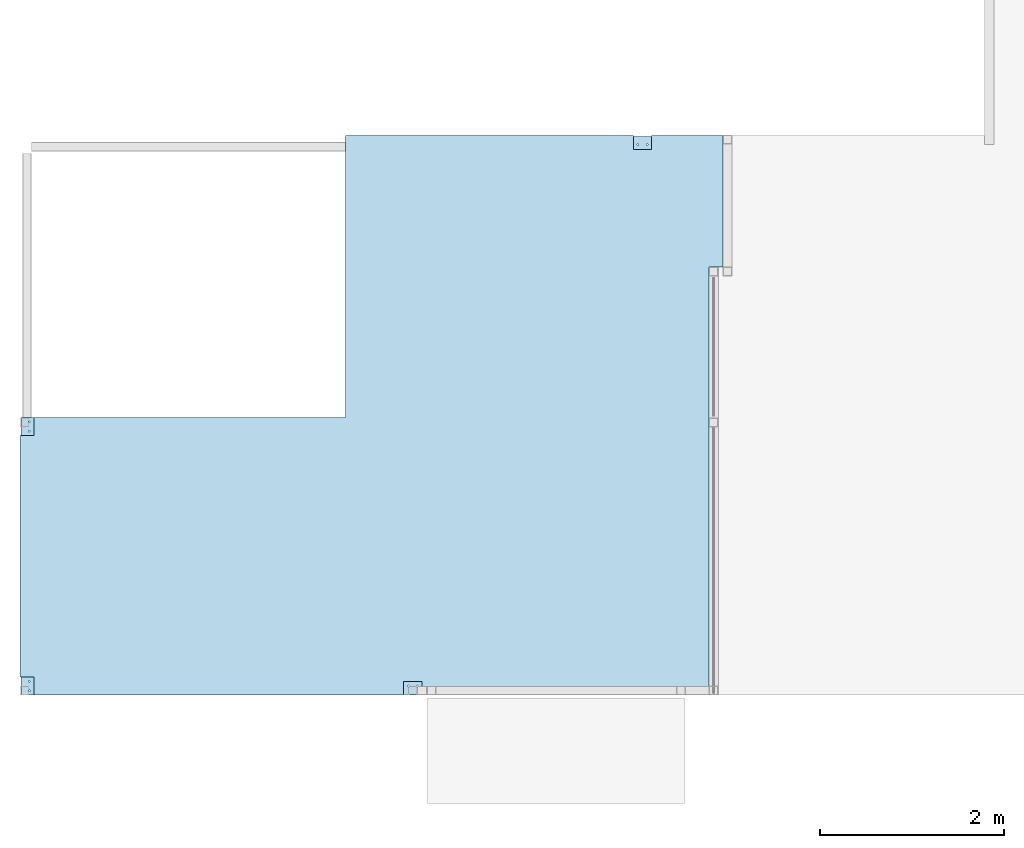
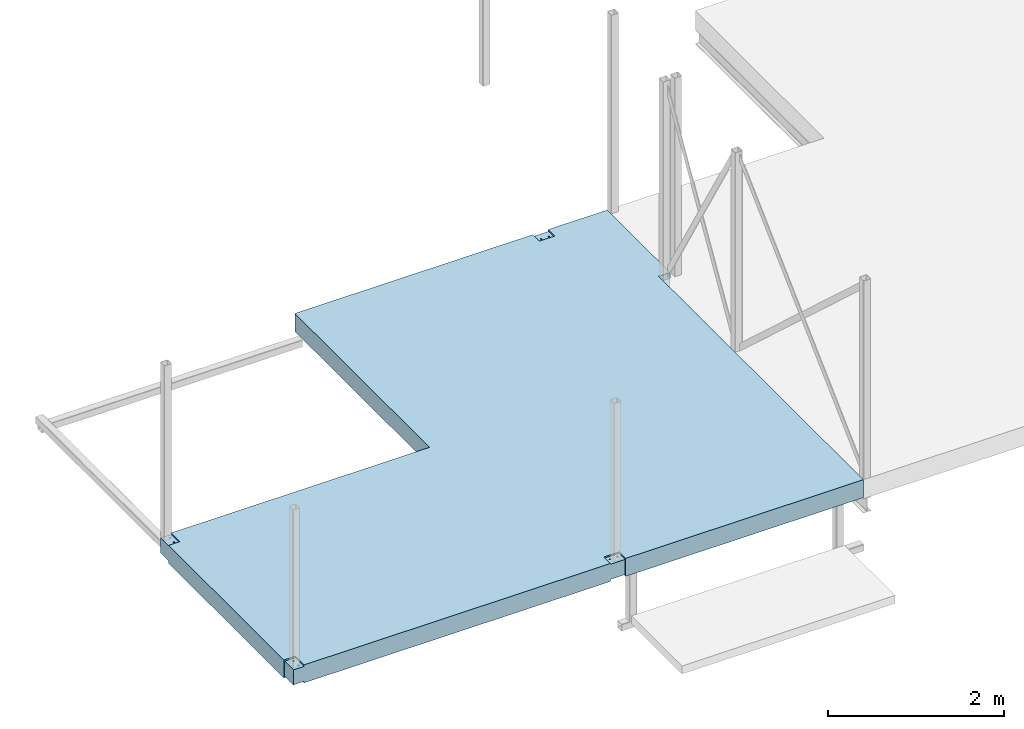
# One storey, part 7 of 7: 1 slab.
"""IFC2X3 building model written with IfcOpenShell, lengths in millimetres."""

from ifc_helpers import new_model, entity, si_unit, converted_unit, derived_unit, direction, frame, origin, place, context, subcontext, project, spatial, faceted_brep, material, element, save


model = new_model("IFC2X3")

# Units and contexts
model_context = context("Model", 3, precision=0.01, world=origin(), true_north=direction((6.12303176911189e-17, 1.0)))
body_context = subcontext(model_context, "Body", "Model", "MODEL_VIEW")
ifc_project = project(units=[si_unit("LENGTHUNIT", "METRE", prefix="MILLI"), si_unit("AREAUNIT", "SQUARE_METRE"), si_unit("VOLUMEUNIT", "CUBIC_METRE"), converted_unit("PLANEANGLEUNIT", "DEGREE", entity("IfcRatioMeasure", 0.0174532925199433), si_unit("PLANEANGLEUNIT", "RADIAN"), dimensions=[0, 0, 0, 0, 0, 0, 0]), si_unit("MASSUNIT", "GRAM", prefix="KILO"), derived_unit("MASSDENSITYUNIT", [(si_unit("MASSUNIT", "GRAM", prefix="KILO"), 1), (si_unit("LENGTHUNIT", "METRE"), -3)]), si_unit("TIMEUNIT", "SECOND"), si_unit("FREQUENCYUNIT", "HERTZ"), si_unit("THERMODYNAMICTEMPERATUREUNIT", "DEGREE_CELSIUS"), derived_unit("THERMALTRANSMITTANCEUNIT", [(si_unit("MASSUNIT", "GRAM", prefix="KILO"), 1), (si_unit("THERMODYNAMICTEMPERATUREUNIT", "KELVIN"), -1), (si_unit("TIMEUNIT", "SECOND"), -3)]), derived_unit("VOLUMETRICFLOWRATEUNIT", [(si_unit("LENGTHUNIT", "METRE"), 3), (si_unit("TIMEUNIT", "SECOND"), -1)]), si_unit("ELECTRICCURRENTUNIT", "AMPERE"), si_unit("ELECTRICVOLTAGEUNIT", "VOLT"), si_unit("POWERUNIT", "WATT"), si_unit("FORCEUNIT", "NEWTON", prefix="KILO"), si_unit("ILLUMINANCEUNIT", "LUX"), si_unit("LUMINOUSFLUXUNIT", "LUMEN"), si_unit("LUMINOUSINTENSITYUNIT", "CANDELA"), derived_unit("USERDEFINED", [(si_unit("MASSUNIT", "GRAM", prefix="KILO"), -1), (si_unit("LENGTHUNIT", "METRE"), -2), (si_unit("TIMEUNIT", "SECOND"), 3), (si_unit("LUMINOUSFLUXUNIT", "LUMEN"), 1)]), derived_unit("LINEARVELOCITYUNIT", [(si_unit("LENGTHUNIT", "METRE"), 1), (si_unit("TIMEUNIT", "SECOND"), -1)]), si_unit("PRESSUREUNIT", "PASCAL"), derived_unit("USERDEFINED", [(si_unit("LENGTHUNIT", "METRE"), -2), (si_unit("MASSUNIT", "GRAM", prefix="KILO"), 1), (si_unit("TIMEUNIT", "SECOND"), -2)])], contexts=[model_context])

# Site, building, storey
site_placement = place(None, frame((0.0, 0.0, 101000.0)))
site = spatial("IfcSite", under=ifc_project, at=site_placement, Name="Default", CompositionType="ELEMENT")
building_placement = place(site_placement, origin())
building = spatial("IfcBuilding", under=site, at=building_placement, CompositionType="ELEMENT")
storey_placement = place(building_placement, frame((0.0, 0.0, 3150.0)))
storey = spatial("IfcBuildingStorey", under=building, at=storey_placement, Name="02", CompositionType="ELEMENT", Elevation=3149.9999999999)

# Slab
ifc_material = material(Name="Betong Plasstøpt - B35")
slab_placement = place(storey_placement, origin())
element("IfcSlab", 1, at=slab_placement, inside=storey, material=ifc_material, Name="Floor:BETONG 250", ObjectType="Floor:BETONG 250", PredefinedType="FLOOR", context=body_context, shape_type="Brep", body=[
    faceted_brep([(11361.2644969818, 29540.299422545, -250.0), (10586.2644969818, 29540.299422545, -250.0), (10586.2644969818, 29540.299422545, -230.0), (10586.2644969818, 29540.299422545, -20.0), (10586.2644969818, 29540.299422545, 0.0), (11361.2644969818, 29540.299422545, 0.0), (10386.2644969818, 29540.299422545, -250.0), (7256.2644969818, 29540.2994225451, -250.0), (7256.2644969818, 29540.2994225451, 0.0), (10386.2644969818, 29540.299422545, 0.0), (10386.2644969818, 29540.299422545, -20.0), (10386.2644969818, 29540.299422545, -230.0), (7886.26449698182, 23447.9507529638, -250.0), (7886.26449698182, 23447.9507529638, -230.0), (7886.26449698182, 23447.9507529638, -20.0), (7886.26449698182, 23447.9507529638, 0.0), (3861.26449698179, 23447.9507529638, 0.0), (3861.26449698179, 23447.9507529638, -20.0), (3721.26449698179, 23447.9507529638, -20.0), (3721.26449698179, 23447.9507529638, -230.0), (3861.26449698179, 23447.9507529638, -230.0), (3861.26449698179, 23447.9507529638, -250.0), (8086.26449698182, 23447.9507529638, -250.0), (11211.2644969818, 23447.9507529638, -250.0), (11211.2644969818, 23447.9507529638, 0.0), (8086.26449698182, 23447.9507529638, 0.0), (8086.26449698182, 23447.9507529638, -20.0), (8086.26449698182, 23447.9507529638, -230.0), (11211.2644969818, 28108.4336358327, -250.0), (8086.26449698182, 23597.9507529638, -250.0), (7886.26449698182, 23597.9507529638, -250.0), (3861.2644969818, 23647.9507529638, -250.0), (3711.2644969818, 23647.9507529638, -250.0), (3711.2644969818, 26272.9507529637, -250.0), (3861.2644969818, 26272.9507529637, -250.0), (3861.2644969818, 26472.9507529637, -250.0), (7256.26449698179, 26472.9507529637, -250.0), (10386.2644969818, 29390.299422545, -250.0), (10586.2644969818, 29390.2994225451, -250.0), (11361.2644969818, 28108.4336358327, -250.0), (7886.26449698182, 23597.9507529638, 0.0), (8086.26449698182, 23597.9507529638, 0.0), (11211.2644969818, 28108.4336358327, 0.0), (11361.2644969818, 28108.4336358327, 0.0), (10586.2644969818, 29390.299422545, 0.0), (10386.2644969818, 29390.299422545, 0.0), (7256.26449698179, 26472.9507529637, 0.0), (3861.2644969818, 26472.9507529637, 0.0), (3861.2644969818, 26272.9507529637, 0.0), (3711.2644969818, 26272.9507529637, 0.0), (3711.2644969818, 23647.9507529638, 0.0), (3861.2644969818, 23647.9507529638, 0.0), (3711.2644969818, 23647.9507529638, -230.0), (3711.2644969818, 23647.9507529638, -20.0), (3711.2644969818, 26272.9507529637, -20.0), (3711.2644969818, 26272.9507529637, -230.0), (3861.2644969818, 26472.9507529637, -230.0), (3721.2644969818, 26472.9507529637, -230.0), (3721.2644969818, 26472.9507529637, -20.0), (3861.2644969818, 26472.9507529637, -20.0), (3801.2644969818, 23497.9507529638, -230.0), (3721.2644969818, 23647.9507529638, -230.0), (3806.26449698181, 23489.2904989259, -230.0), (3801.26449698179, 23597.9507529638, -230.0), (3806.26449698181, 23506.6110070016, -230.0), (3816.26449698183, 23489.2904989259, -230.0), (3821.26449698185, 23497.9507529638, -230.0), (3821.26449698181, 23597.9507529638, -230.0), (3816.26449698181, 23589.2904989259, -230.0), (3816.26449698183, 23506.6110070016, -230.0), (3806.2644969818, 23589.2904989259, -230.0), (3861.2644969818, 23647.9507529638, -230.0), (3816.26449698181, 23606.6110070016, -230.0), (3806.2644969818, 23606.6110070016, -230.0), (3801.26449698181, 26322.9507529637, -230.0), (3721.2644969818, 26272.9507529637, -230.0), (3806.26449698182, 26314.2904989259, -230.0), (3801.26449698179, 26422.9507529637, -230.0), (3806.26449698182, 26331.6110070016, -230.0), (3861.2644969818, 26272.9507529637, -230.0), (3816.26449698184, 26314.2904989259, -230.0), (3821.26449698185, 26322.9507529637, -230.0), (3821.26449698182, 26422.9507529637, -230.0), (3816.26449698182, 26414.2904989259, -230.0), (3816.26449698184, 26331.6110070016, -230.0), (3806.2644969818, 26414.2904989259, -230.0), (3816.26449698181, 26431.6110070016, -230.0), (3806.2644969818, 26431.6110070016, -230.0), (8036.26449698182, 23537.9507529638, -230.0), (8086.26449698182, 23457.9507529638, -230.0), (7886.26449698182, 23457.9507529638, -230.0), (8044.92475101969, 23542.9507529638, -230.0), (7936.26449698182, 23537.9507529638, -230.0), (8027.60424294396, 23542.9507529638, -230.0), (8086.26449698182, 23597.9507529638, -230.0), (8044.92475101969, 23552.9507529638, -230.0), (8036.26449698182, 23557.9507529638, -230.0), (7936.26449698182, 23557.9507529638, -230.0), (7944.92475101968, 23552.9507529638, -230.0), (8027.60424294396, 23552.9507529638, -230.0), (7944.92475101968, 23542.9507529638, -230.0), (7886.26449698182, 23597.9507529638, -230.0), (7927.60424294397, 23552.9507529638, -230.0), (7927.60424294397, 23542.9507529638, -230.0), (10436.2644969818, 29450.299422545, -230.0), (10386.2644969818, 29530.2994225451, -230.0), (10586.2644969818, 29530.2994225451, -230.0), (10427.6042429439, 29445.299422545, -230.0), (10536.2644969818, 29450.2994225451, -230.0), (10444.9247510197, 29445.299422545, -230.0), (10386.2644969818, 29390.299422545, -230.0), (10427.6042429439, 29435.299422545, -230.0), (10436.2644969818, 29430.299422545, -230.0), (10536.2644969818, 29430.299422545, -230.0), (10527.6042429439, 29435.299422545, -230.0), (10444.9247510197, 29435.299422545, -230.0), (10527.6042429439, 29445.2994225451, -230.0), (10586.2644969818, 29390.299422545, -230.0), (10544.9247510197, 29435.299422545, -230.0), (10544.9247510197, 29445.2994225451, -230.0), (3861.2644969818, 23647.9507529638, -20.0), (3861.2644969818, 26272.9507529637, -20.0), (3721.2644969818, 23647.9507529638, -20.0), (3721.2644969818, 26272.9507529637, -20.0), (3816.26449698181, 23606.6110070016, -20.0), (3821.26449698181, 23597.9507529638, -20.0), (3806.2644969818, 23606.6110070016, -20.0), (3801.26449698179, 23597.9507529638, -20.0), (3806.2644969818, 23589.2904989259, -20.0), (3816.26449698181, 23589.2904989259, -20.0), (3821.26449698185, 23497.9507529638, -20.0), (3816.26449698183, 23506.6110070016, -20.0), (3806.26449698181, 23506.6110070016, -20.0), (3801.2644969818, 23497.9507529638, -20.0), (3806.26449698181, 23489.2904989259, -20.0), (3816.26449698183, 23489.2904989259, -20.0), (3821.26449698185, 26322.9507529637, -20.0), (3821.26449698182, 26422.9507529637, -20.0), (3816.26449698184, 26314.2904989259, -20.0), (3816.26449698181, 26414.2904989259, -20.0), (3816.26449698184, 26331.6110070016, -20.0), (3806.26449698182, 26314.2904989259, -20.0), (3801.26449698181, 26322.9507529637, -20.0), (3801.26449698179, 26422.9507529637, -20.0), (3806.26449698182, 26331.6110070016, -20.0), (3806.2644969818, 26414.2904989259, -20.0), (3806.2644969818, 26431.6110070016, -20.0), (3816.26449698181, 26431.6110070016, -20.0), (8036.26449698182, 23557.9507529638, -20.0), (8086.26449698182, 23597.9507529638, -20.0), (7936.26449698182, 23557.9507529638, -20.0), (8044.92475101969, 23552.9507529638, -20.0), (7944.92475101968, 23552.9507529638, -20.0), (8027.60424294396, 23552.9507529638, -20.0), (8044.92475101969, 23542.9507529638, -20.0), (8086.26449698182, 23457.9507529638, -20.0), (8036.26449698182, 23537.9507529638, -20.0), (7886.26449698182, 23457.9507529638, -20.0), (7936.26449698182, 23537.9507529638, -20.0), (8027.60424294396, 23542.9507529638, -20.0), (7944.92475101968, 23542.9507529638, -20.0), (7927.60424294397, 23542.9507529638, -20.0), (7886.26449698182, 23597.9507529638, -20.0), (7927.60424294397, 23552.9507529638, -20.0), (10436.2644969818, 29430.299422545, -20.0), (10386.2644969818, 29390.299422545, -20.0), (10536.2644969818, 29430.299422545, -20.0), (10427.6042429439, 29435.299422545, -20.0), (10527.6042429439, 29435.299422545, -20.0), (10444.9247510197, 29435.299422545, -20.0), (10427.6042429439, 29445.299422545, -20.0), (10386.2644969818, 29530.2994225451, -20.0), (10436.2644969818, 29450.299422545, -20.0), (10586.2644969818, 29530.2994225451, -20.0), (10536.2644969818, 29450.2994225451, -20.0), (10444.9247510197, 29445.299422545, -20.0), (10527.6042429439, 29445.2994225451, -20.0), (10544.9247510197, 29445.2994225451, -20.0), (10586.2644969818, 29390.299422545, -20.0), (10544.9247510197, 29435.299422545, -20.0)], [[[0, 1, 2, 3, 4, 5]], [[6, 7, 8, 9, 10, 11]], [[12, 13, 14, 15, 16, 17, 18, 19, 20, 21]], [[22, 23, 24, 25, 26, 27]], [[28, 23, 22, 29, 30, 12, 21, 31, 32, 33, 34, 35, 36, 7, 6, 37, 38, 1, 0, 39]], [[16, 15, 40, 41, 25, 24, 42, 43, 5, 4, 44, 45, 9, 8, 46, 47, 48, 49, 50, 51]], [[32, 52, 53, 50, 49, 54, 55, 33]], [[36, 35, 56, 57, 58, 59, 47, 46]], [[7, 36, 46, 8]], [[39, 0, 5, 43]], [[28, 39, 43, 42]], [[23, 28, 42, 24]], [[60, 19, 61]], [[62, 19, 60]], [[63, 60, 61]], [[64, 60, 63]], [[62, 20, 19]], [[20, 62, 65]], [[65, 66, 20]], [[20, 66, 67]], [[66, 68, 67]], [[68, 66, 69]], [[64, 68, 69]], [[68, 64, 70]], [[67, 71, 20]], [[72, 71, 67]], [[73, 71, 72]], [[73, 63, 61]], [[71, 73, 61]], [[63, 70, 64]], [[60, 19, 61]], [[62, 19, 60]], [[63, 60, 61]], [[64, 60, 63]], [[62, 20, 19]], [[20, 62, 65]], [[65, 66, 20]], [[20, 66, 67]], [[66, 68, 67]], [[68, 66, 69]], [[64, 68, 69]], [[68, 64, 70]], [[67, 71, 20]], [[72, 71, 67]], [[73, 71, 72]], [[73, 63, 61]], [[71, 73, 61]], [[63, 70, 64]], [[74, 75, 57]], [[76, 75, 74]], [[77, 74, 57]], [[78, 74, 77]], [[76, 79, 75]], [[79, 76, 80]], [[80, 81, 79]], [[79, 81, 82]], [[81, 83, 82]], [[83, 81, 84]], [[78, 83, 84]], [[83, 78, 85]], [[82, 56, 79]], [[86, 56, 82]], [[87, 56, 86]], [[87, 77, 57]], [[56, 87, 57]], [[77, 85, 78]], [[60, 19, 61]], [[62, 19, 60]], [[63, 60, 61]], [[64, 60, 63]], [[62, 20, 19]], [[20, 62, 65]], [[65, 66, 20]], [[20, 66, 67]], [[66, 68, 67]], [[68, 66, 69]], [[64, 68, 69]], [[68, 64, 70]], [[67, 71, 20]], [[72, 71, 67]], [[73, 71, 72]], [[73, 63, 61]], [[71, 73, 61]], [[63, 70, 64]], [[74, 75, 57]], [[76, 75, 74]], [[77, 74, 57]], [[78, 74, 77]], [[76, 79, 75]], [[79, 76, 80]], [[80, 81, 79]], [[79, 81, 82]], [[81, 83, 82]], [[83, 81, 84]], [[78, 83, 84]], [[83, 78, 85]], [[82, 56, 79]], [[86, 56, 82]], [[87, 56, 86]], [[87, 77, 57]], [[56, 87, 57]], [[77, 85, 78]], [[88, 89, 90]], [[91, 89, 88]], [[92, 88, 90]], [[93, 88, 92]], [[91, 94, 89]], [[94, 91, 95]], [[95, 96, 94]], [[94, 96, 97]], [[96, 98, 97]], [[98, 96, 99]], [[93, 98, 99]], [[98, 93, 100]], [[97, 101, 94]], [[102, 101, 97]], [[103, 101, 102]], [[103, 92, 90]], [[101, 103, 90]], [[92, 100, 93]], [[60, 19, 61]], [[62, 19, 60]], [[63, 60, 61]], [[64, 60, 63]], [[62, 20, 19]], [[20, 62, 65]], [[65, 66, 20]], [[20, 66, 67]], [[66, 68, 67]], [[68, 66, 69]], [[64, 68, 69]], [[68, 64, 70]], [[67, 71, 20]], [[72, 71, 67]], [[73, 71, 72]], [[73, 63, 61]], [[71, 73, 61]], [[63, 70, 64]], [[74, 75, 57]], [[76, 75, 74]], [[77, 74, 57]], [[78, 74, 77]], [[76, 79, 75]], [[79, 76, 80]], [[80, 81, 79]], [[79, 81, 82]], [[81, 83, 82]], [[83, 81, 84]], [[78, 83, 84]], [[83, 78, 85]], [[82, 56, 79]], [[86, 56, 82]], [[87, 56, 86]], [[87, 77, 57]], [[56, 87, 57]], [[77, 85, 78]], [[88, 89, 90]], [[91, 89, 88]], [[92, 88, 90]], [[93, 88, 92]], [[91, 94, 89]], [[94, 91, 95]], [[95, 96, 94]], [[94, 96, 97]], [[96, 98, 97]], [[98, 96, 99]], [[93, 98, 99]], [[98, 93, 100]], [[97, 101, 94]], [[102, 101, 97]], [[103, 101, 102]], [[103, 92, 90]], [[101, 103, 90]], [[92, 100, 93]], [[104, 105, 106]], [[107, 105, 104]], [[108, 104, 106]], [[109, 104, 108]], [[107, 110, 105]], [[110, 107, 111]], [[111, 112, 110]], [[110, 112, 113]], [[112, 114, 113]], [[114, 112, 115]], [[109, 114, 115]], [[114, 109, 116]], [[113, 117, 110]], [[118, 117, 113]], [[119, 117, 118]], [[119, 108, 106]], [[117, 119, 106]], [[108, 116, 109]], [[21, 20, 71, 31]], [[17, 16, 51, 120]], [[35, 34, 79, 56]], [[59, 121, 48, 47]], [[122, 120, 51, 50, 53, 52, 32, 31, 71, 61]], [[19, 18, 122, 61]], [[75, 123, 58, 57]], [[124, 72, 67, 125]], [[124, 126, 73, 72]], [[126, 127, 63, 73]], [[128, 70, 63, 127]], [[128, 129, 68, 70]], [[129, 125, 67, 68]], [[130, 131, 69, 66]], [[131, 132, 64, 69]], [[133, 60, 64, 132]], [[133, 134, 62, 60]], [[134, 135, 65, 62]], [[130, 66, 65, 135]], [[130, 17, 125]], [[135, 17, 130]], [[125, 129, 130]], [[131, 130, 129]], [[135, 134, 17]], [[18, 17, 134]], [[134, 133, 18]], [[18, 133, 122]], [[127, 122, 133]], [[127, 133, 132]], [[129, 132, 131]], [[129, 128, 132]], [[132, 128, 127]], [[126, 122, 127]], [[120, 122, 126]], [[126, 124, 120]], [[124, 125, 120]], [[125, 17, 120]], [[130, 17, 125]], [[135, 17, 130]], [[125, 129, 130]], [[131, 130, 129]], [[135, 134, 17]], [[18, 17, 134]], [[134, 133, 18]], [[18, 133, 122]], [[127, 122, 133]], [[127, 133, 132]], [[129, 132, 131]], [[129, 128, 132]], [[132, 128, 127]], [[126, 122, 127]], [[120, 122, 126]], [[126, 124, 120]], [[124, 125, 120]], [[125, 17, 120]], [[136, 121, 137]], [[138, 121, 136]], [[137, 139, 136]], [[140, 136, 139]], [[138, 141, 121]], [[123, 121, 141]], [[141, 142, 123]], [[123, 142, 58]], [[143, 58, 142]], [[143, 142, 144]], [[139, 144, 140]], [[139, 145, 144]], [[144, 145, 143]], [[146, 58, 143]], [[59, 58, 146]], [[146, 147, 59]], [[147, 137, 59]], [[137, 121, 59]], [[130, 17, 125]], [[135, 17, 130]], [[125, 129, 130]], [[131, 130, 129]], [[135, 134, 17]], [[18, 17, 134]], [[134, 133, 18]], [[18, 133, 122]], [[127, 122, 133]], [[127, 133, 132]], [[129, 132, 131]], [[129, 128, 132]], [[132, 128, 127]], [[126, 122, 127]], [[120, 122, 126]], [[126, 124, 120]], [[124, 125, 120]], [[125, 17, 120]], [[136, 121, 137]], [[138, 121, 136]], [[137, 139, 136]], [[140, 136, 139]], [[138, 141, 121]], [[123, 121, 141]], [[141, 142, 123]], [[123, 142, 58]], [[143, 58, 142]], [[143, 142, 144]], [[139, 144, 140]], [[139, 145, 144]], [[144, 145, 143]], [[146, 58, 143]], [[59, 58, 146]], [[146, 147, 59]], [[147, 137, 59]], [[137, 121, 59]], [[148, 149, 150]], [[151, 149, 148]], [[150, 152, 148]], [[153, 148, 152]], [[151, 154, 149]], [[155, 149, 154]], [[154, 156, 155]], [[155, 156, 157]], [[158, 157, 156]], [[158, 156, 159]], [[152, 159, 153]], [[152, 160, 159]], [[159, 160, 158]], [[161, 157, 158]], [[162, 157, 161]], [[161, 163, 162]], [[163, 150, 162]], [[150, 149, 162]], [[130, 17, 125]], [[135, 17, 130]], [[125, 129, 130]], [[131, 130, 129]], [[135, 134, 17]], [[18, 17, 134]], [[134, 133, 18]], [[18, 133, 122]], [[127, 122, 133]], [[127, 133, 132]], [[129, 132, 131]], [[129, 128, 132]], [[132, 128, 127]], [[126, 122, 127]], [[120, 122, 126]], [[126, 124, 120]], [[124, 125, 120]], [[125, 17, 120]], [[136, 121, 137]], [[138, 121, 136]], [[137, 139, 136]], [[140, 136, 139]], [[138, 141, 121]], [[123, 121, 141]], [[141, 142, 123]], [[123, 142, 58]], [[143, 58, 142]], [[143, 142, 144]], [[139, 144, 140]], [[139, 145, 144]], [[144, 145, 143]], [[146, 58, 143]], [[59, 58, 146]], [[146, 147, 59]], [[147, 137, 59]], [[137, 121, 59]], [[148, 149, 150]], [[151, 149, 148]], [[150, 152, 148]], [[153, 148, 152]], [[151, 154, 149]], [[155, 149, 154]], [[154, 156, 155]], [[155, 156, 157]], [[158, 157, 156]], [[158, 156, 159]], [[152, 159, 153]], [[152, 160, 159]], [[159, 160, 158]], [[161, 157, 158]], [[162, 157, 161]], [[161, 163, 162]], [[163, 150, 162]], [[150, 149, 162]], [[164, 165, 166]], [[167, 165, 164]], [[166, 168, 164]], [[169, 164, 168]], [[167, 170, 165]], [[171, 165, 170]], [[170, 172, 171]], [[171, 172, 173]], [[174, 173, 172]], [[174, 172, 175]], [[168, 175, 169]], [[168, 176, 175]], [[175, 176, 174]], [[177, 173, 174]], [[178, 173, 177]], [[177, 179, 178]], [[179, 166, 178]], [[166, 165, 178]], [[123, 75, 79, 34, 33, 55, 54, 49, 48, 121]], [[147, 86, 82, 137]], [[147, 146, 87, 86]], [[146, 143, 77, 87]], [[145, 85, 77, 143]], [[145, 139, 83, 85]], [[139, 137, 82, 83]], [[136, 140, 84, 81]], [[140, 144, 78, 84]], [[142, 74, 78, 144]], [[142, 141, 76, 74]], [[141, 138, 80, 76]], [[136, 81, 80, 138]], [[155, 89, 94, 29, 22, 27, 26, 25, 41, 149]], [[30, 29, 94, 101]], [[149, 41, 40, 162]], [[157, 162, 40, 15, 14, 13, 12, 30, 101, 90]], [[89, 155, 157, 90]], [[163, 102, 97, 150]], [[163, 161, 103, 102]], [[161, 158, 92, 103]], [[160, 100, 92, 158]], [[160, 152, 98, 100]], [[152, 150, 97, 98]], [[148, 153, 99, 96]], [[153, 159, 93, 99]], [[156, 88, 93, 159]], [[156, 154, 91, 88]], [[154, 151, 95, 91]], [[148, 96, 95, 151]], [[171, 105, 110, 37, 6, 11, 10, 9, 45, 165]], [[38, 37, 110, 117]], [[165, 45, 44, 178]], [[173, 178, 44, 4, 3, 2, 1, 38, 117, 106]], [[105, 171, 173, 106]], [[179, 118, 113, 166]], [[179, 177, 119, 118]], [[177, 174, 108, 119]], [[176, 116, 108, 174]], [[176, 168, 114, 116]], [[168, 166, 113, 114]], [[164, 169, 115, 112]], [[169, 175, 109, 115]], [[172, 104, 109, 175]], [[172, 170, 107, 104]], [[170, 167, 111, 107]], [[164, 112, 111, 167]]]),
])

save(model, "model.ifc")
